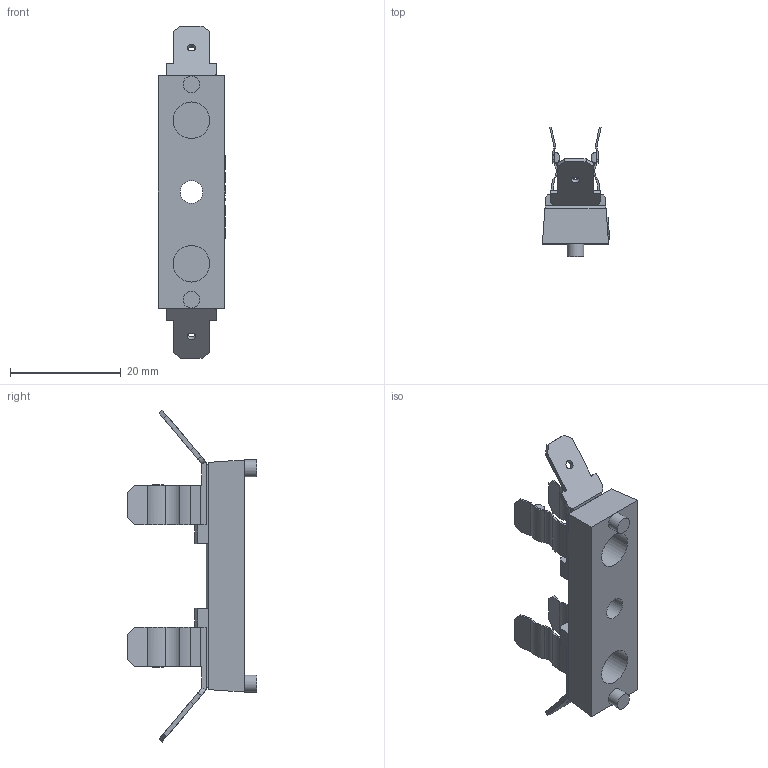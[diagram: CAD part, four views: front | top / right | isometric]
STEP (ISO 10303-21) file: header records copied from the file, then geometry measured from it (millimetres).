
FILE_DESCRIPTION(/* description */ (''),/* implementation_level */ '2;1');
FILE_NAME(/* name */ 'C:\Users\Hani\Desktop\work\BLC-16\BLC-16-B2.stp',/* time_stamp */ '2021-07-10T11:58:21-07:00',/* author */ ('Hani'),/* organization */ (''),/* preprocessor_version */ 'ST-DEVELOPER v17',/* originating_system */ 'Autodesk Inventor 2019',/* authorisation */ '');
FILE_SCHEMA (('AUTOMOTIVE_DESIGN { 1 0 10303 214 3 1 1 }'));
Length unit declared in the file: inch
Products named in the file (6): BLC-16-B2; BLC-16-B2_1; terminal; Bent-Terminal; Bent-Terminal_MIR; river
Assembly tree (7 placements, depth 2):
  BLC-16-B2
    BLC-16-B2_1
    terminal  x2
    Bent-Terminal
    Bent-Terminal_MIR
    river  x2
Bounding box: 12.13 x 23.37 x 59.94 mm (x, y, z)
Volume: 3316 mm3; surface area: 4165.5 mm2
Topology: 7 solids, 7 shells, 343 faces, 902 edges, 592 vertices
Faces by surface type: plane 212, bspline 67, cylinder 64
Full cylindrical faces by diameter (mm): 1.524 x2, 3.048 x2, 3.556 x6, 4.064 x3, 4.445 x2, 6.604 x4, 7.874 x1
Entity records: 9432 total; most frequent: CARTESIAN_POINT 2588, ORIENTED_EDGE 1478, DIRECTION 1166, EDGE_CURVE 739, LINE 494, VECTOR 494, VERTEX_POINT 487, AXIS2_PLACEMENT_3D 336
